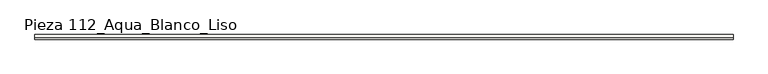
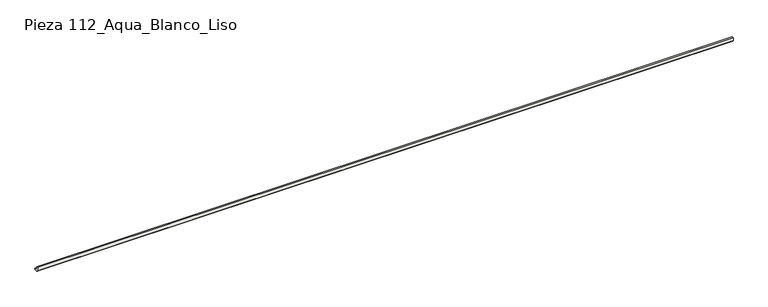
"""IFC4 building model written with IfcOpenShell, lengths in millimetres: slab geometry, ROSA GRES_112 : Pieza 112_Aqua_Blanco_Liso."""

from ifc_helpers import new_model, si_unit, point, frame, frame_2d, origin, place, context, project, spatial, polyline, circle_curve, trimmed, segment, composite_curve, outline, extrude, source, transform, mapped, element, save


def pieza_112_aqua_blanco_liso_b51737e8(model_context):
    return source(origin(), model_context, "Body", "SweptSolid", [
        extrude(outline(composite_curve([segment(polyline([(0.0, 8.7114978), (0.0, 40.0), (9.9734114, 40.0)]), True, "CONTINUOUS"), segment(trimmed(circle_curve(frame_2d((39.9955547, 39.9955547)), 30.0221435), [point((9.9734114, 40.0))], [point((40.0, 9.9734114))], True, "CARTESIAN"), True, "CONTINUOUS"), segment(polyline([(40.0, 9.9734114), (40.0, 0.0), (8.7114978, 0.0), (0.0, 8.7114978)]), True, "CONTINUOUS")], self_intersect=False)), frame((0.0, 0.0, 0.0), z_axis=(1.0, 0.0, 0.0), x_axis=(0.0, 1.0, 0.0)), (0.0, 0.0, 1.0), 6025.0),
    ])


if __name__ == "__main__":
    model = new_model("IFC4")
    model_context = context("Model", 3, world=origin())
    ifc_project = project(units=[si_unit("LENGTHUNIT", "METRE", prefix="MILLI")], contexts=[model_context])
    site = spatial("IfcSite", under=ifc_project)
    building = spatial("IfcBuilding", under=site)
    placement = place(None, origin())
    pieza_112_aqua_blanco_liso_shape = pieza_112_aqua_blanco_liso_b51737e8(model_context)
    element("IfcSlab", 1, ObjectType="ROSA GRES_112 : Pieza 112_Aqua_Blanco_Liso", at=placement, inside=building, context=model_context, shape_type="MappedRepresentation", body=[
        mapped(pieza_112_aqua_blanco_liso_shape, transform((0.0, 0.0, 0.0), x_axis=(1.0, 0.0, 0.0), y_axis=(0.0, 1.0, 0.0), z_axis=(0.0, 0.0, 1.0))),
    ])
    save(model, "model.ifc")
